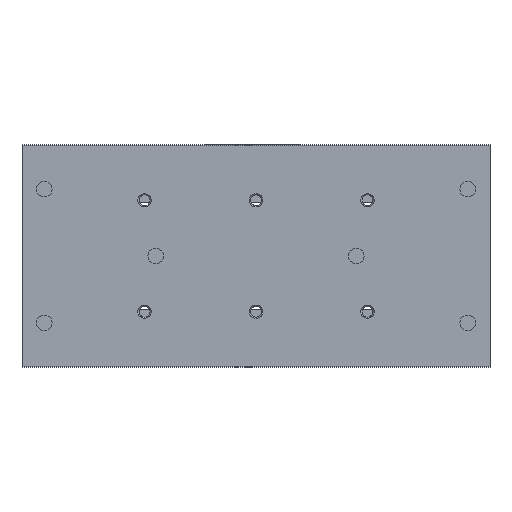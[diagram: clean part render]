
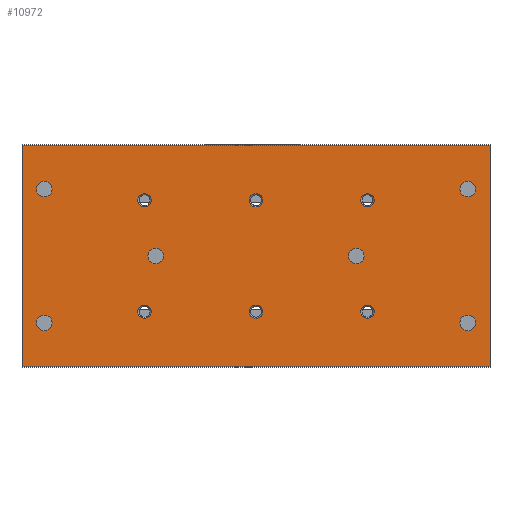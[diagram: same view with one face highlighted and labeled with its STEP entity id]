
A CAD part, front view. The second image highlights one B-rep face of the part: STEP entity #10972.
In plain terms, the highlighted planar face has unit normal (0, -1, 0).
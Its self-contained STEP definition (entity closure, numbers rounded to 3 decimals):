
#370=CIRCLE('',#11626,3.);
#371=CIRCLE('',#11627,3.);
#372=CIRCLE('',#11628,3.);
#373=CIRCLE('',#11629,3.);
#374=CIRCLE('',#11630,3.);
#375=CIRCLE('',#11631,3.);
#376=CIRCLE('',#11632,3.5);
#377=CIRCLE('',#11633,3.5);
#378=CIRCLE('',#11634,3.5);
#379=CIRCLE('',#11635,3.5);
#380=CIRCLE('',#11636,3.5);
#381=CIRCLE('',#11637,3.5);
#1128=ORIENTED_EDGE('',*,*,#4477,.F.);
#1129=ORIENTED_EDGE('',*,*,#4478,.F.);
#1130=ORIENTED_EDGE('',*,*,#4479,.F.);
#1131=ORIENTED_EDGE('',*,*,#4480,.F.);
#1132=ORIENTED_EDGE('',*,*,#4481,.F.);
#1133=ORIENTED_EDGE('',*,*,#4482,.F.);
#1134=ORIENTED_EDGE('',*,*,#4483,.F.);
#1135=ORIENTED_EDGE('',*,*,#4484,.F.);
#1136=ORIENTED_EDGE('',*,*,#4485,.T.);
#1137=ORIENTED_EDGE('',*,*,#4486,.F.);
#1138=ORIENTED_EDGE('',*,*,#4487,.F.);
#1139=ORIENTED_EDGE('',*,*,#4488,.F.);
#1140=ORIENTED_EDGE('',*,*,#4431,.T.);
#1141=ORIENTED_EDGE('',*,*,#4489,.F.);
#1142=ORIENTED_EDGE('',*,*,#4490,.F.);
#1143=ORIENTED_EDGE('',*,*,#4475,.T.);
#4431=EDGE_CURVE('',#6112,#6111,#7235,.T.);
#4475=EDGE_CURVE('',#6146,#6112,#7279,.T.);
#4477=EDGE_CURVE('',#6147,#6147,#370,.T.);
#4478=EDGE_CURVE('',#6148,#6148,#371,.T.);
#4479=EDGE_CURVE('',#6149,#6149,#372,.T.);
#4480=EDGE_CURVE('',#6150,#6150,#373,.T.);
#4481=EDGE_CURVE('',#6151,#6151,#374,.T.);
#4482=EDGE_CURVE('',#6152,#6152,#375,.T.);
#4483=EDGE_CURVE('',#6153,#6153,#376,.T.);
#4484=EDGE_CURVE('',#6154,#6154,#377,.T.);
#4485=EDGE_CURVE('',#6155,#6155,#378,.T.);
#4486=EDGE_CURVE('',#6156,#6156,#379,.T.);
#4487=EDGE_CURVE('',#6157,#6157,#380,.T.);
#4488=EDGE_CURVE('',#6158,#6158,#381,.T.);
#4489=EDGE_CURVE('',#6159,#6111,#7281,.T.);
#4490=EDGE_CURVE('',#6146,#6159,#7282,.T.);
#6111=VERTEX_POINT('',#16590);
#6112=VERTEX_POINT('',#16592);
#6146=VERTEX_POINT('',#16677);
#6147=VERTEX_POINT('',#16681);
#6148=VERTEX_POINT('',#16683);
#6149=VERTEX_POINT('',#16685);
#6150=VERTEX_POINT('',#16687);
#6151=VERTEX_POINT('',#16689);
#6152=VERTEX_POINT('',#16691);
#6153=VERTEX_POINT('',#16693);
#6154=VERTEX_POINT('',#16695);
#6155=VERTEX_POINT('',#16697);
#6156=VERTEX_POINT('',#16699);
#6157=VERTEX_POINT('',#16701);
#6158=VERTEX_POINT('',#16703);
#6159=VERTEX_POINT('',#16705);
#7235=LINE('',#16591,#8243);
#7279=LINE('',#16676,#8287);
#7281=LINE('',#16704,#8289);
#7282=LINE('',#16706,#8290);
#8243=VECTOR('',#12954,1000.);
#8287=VECTOR('',#13012,1000.);
#8289=VECTOR('',#13040,1000.);
#8290=VECTOR('',#13041,1000.);
#9233=EDGE_LOOP('',(#1128));
#9234=EDGE_LOOP('',(#1129));
#9235=EDGE_LOOP('',(#1130));
#9236=EDGE_LOOP('',(#1131));
#9237=EDGE_LOOP('',(#1132));
#9238=EDGE_LOOP('',(#1133));
#9239=EDGE_LOOP('',(#1134));
#9240=EDGE_LOOP('',(#1135));
#9241=EDGE_LOOP('',(#1136));
#9242=EDGE_LOOP('',(#1137));
#9243=EDGE_LOOP('',(#1138));
#9244=EDGE_LOOP('',(#1139));
#9245=EDGE_LOOP('',(#1140,#1141,#1142,#1143));
#9959=FACE_BOUND('',#9233,.T.);
#9960=FACE_BOUND('',#9234,.T.);
#9961=FACE_BOUND('',#9235,.T.);
#9962=FACE_BOUND('',#9236,.T.);
#9963=FACE_BOUND('',#9237,.T.);
#9964=FACE_BOUND('',#9238,.T.);
#9965=FACE_BOUND('',#9239,.T.);
#9966=FACE_BOUND('',#9240,.T.);
#9967=FACE_BOUND('',#9241,.T.);
#9968=FACE_BOUND('',#9242,.T.);
#9969=FACE_BOUND('',#9243,.T.);
#9970=FACE_BOUND('',#9244,.T.);
#9971=FACE_BOUND('',#9245,.T.);
#10685=PLANE('',#11625);
#10972=ADVANCED_FACE('',(#9959,#9960,#9961,#9962,#9963,#9964,#9965,#9966,
#9967,#9968,#9969,#9970,#9971),#10685,.F.);
#11625=AXIS2_PLACEMENT_3D('',#16679,#13014,#13015);
#11626=AXIS2_PLACEMENT_3D('',#16680,#13016,#13017);
#11627=AXIS2_PLACEMENT_3D('',#16682,#13018,#13019);
#11628=AXIS2_PLACEMENT_3D('',#16684,#13020,#13021);
#11629=AXIS2_PLACEMENT_3D('',#16686,#13022,#13023);
#11630=AXIS2_PLACEMENT_3D('',#16688,#13024,#13025);
#11631=AXIS2_PLACEMENT_3D('',#16690,#13026,#13027);
#11632=AXIS2_PLACEMENT_3D('',#16692,#13028,#13029);
#11633=AXIS2_PLACEMENT_3D('',#16694,#13030,#13031);
#11634=AXIS2_PLACEMENT_3D('',#16696,#13032,#13033);
#11635=AXIS2_PLACEMENT_3D('',#16698,#13034,#13035);
#11636=AXIS2_PLACEMENT_3D('',#16700,#13036,#13037);
#11637=AXIS2_PLACEMENT_3D('',#16702,#13038,#13039);
#12954=DIRECTION('',(0.,0.,-1.));
#13012=DIRECTION('',(-1.,0.,0.));
#13014=DIRECTION('',(0.,1.,0.));
#13015=DIRECTION('',(0.,0.,1.));
#13016=DIRECTION('',(0.,-1.,0.));
#13017=DIRECTION('',(0.,0.,-1.));
#13018=DIRECTION('',(0.,-1.,0.));
#13019=DIRECTION('',(0.,0.,-1.));
#13020=DIRECTION('',(0.,-1.,0.));
#13021=DIRECTION('',(0.,0.,-1.));
#13022=DIRECTION('',(0.,-1.,0.));
#13023=DIRECTION('',(0.,0.,-1.));
#13024=DIRECTION('',(0.,-1.,0.));
#13025=DIRECTION('',(0.,0.,-1.));
#13026=DIRECTION('',(0.,-1.,0.));
#13027=DIRECTION('',(0.,0.,-1.));
#13028=DIRECTION('',(0.,-1.,0.));
#13029=DIRECTION('',(0.,0.,-1.));
#13030=DIRECTION('',(0.,-1.,0.));
#13031=DIRECTION('',(0.,0.,-1.));
#13032=DIRECTION('',(0.,1.,0.));
#13033=DIRECTION('',(0.,0.,1.));
#13034=DIRECTION('',(0.,-1.,0.));
#13035=DIRECTION('',(0.,0.,-1.));
#13036=DIRECTION('',(0.,-1.,0.));
#13037=DIRECTION('',(0.,0.,-1.));
#13038=DIRECTION('',(0.,-1.,0.));
#13039=DIRECTION('',(0.,0.,-1.));
#13040=DIRECTION('',(-1.,0.,0.));
#13041=DIRECTION('',(0.,0.,-1.));
#16590=CARTESIAN_POINT('',(0.,0.,-49.7));
#16591=CARTESIAN_POINT('',(0.,0.,49.7));
#16592=CARTESIAN_POINT('',(0.,0.,49.7));
#16676=CARTESIAN_POINT('',(210.,0.,49.7));
#16677=CARTESIAN_POINT('',(210.,0.,49.7));
#16679=CARTESIAN_POINT('',(210.,0.,49.7));
#16680=CARTESIAN_POINT('',(155.,0.,-25.));
#16681=CARTESIAN_POINT('',(155.,0.,-28.));
#16682=CARTESIAN_POINT('',(155.,0.,25.));
#16683=CARTESIAN_POINT('',(155.,0.,22.));
#16684=CARTESIAN_POINT('',(55.,0.,-25.));
#16685=CARTESIAN_POINT('',(55.,0.,-28.));
#16686=CARTESIAN_POINT('',(55.,0.,25.));
#16687=CARTESIAN_POINT('',(55.,0.,22.));
#16688=CARTESIAN_POINT('',(105.,0.,-25.));
#16689=CARTESIAN_POINT('',(105.,0.,-28.));
#16690=CARTESIAN_POINT('',(105.,0.,25.));
#16691=CARTESIAN_POINT('',(105.,0.,22.));
#16692=CARTESIAN_POINT('',(150.,0.,0.));
#16693=CARTESIAN_POINT('',(150.,0.,-3.5));
#16694=CARTESIAN_POINT('',(60.,0.,0.));
#16695=CARTESIAN_POINT('',(60.,0.,-3.5));
#16696=CARTESIAN_POINT('',(200.,0.,30.));
#16697=CARTESIAN_POINT('',(200.,0.,33.5));
#16698=CARTESIAN_POINT('',(200.,0.,-30.));
#16699=CARTESIAN_POINT('',(200.,0.,-33.5));
#16700=CARTESIAN_POINT('',(10.,0.,-30.));
#16701=CARTESIAN_POINT('',(10.,0.,-33.5));
#16702=CARTESIAN_POINT('',(10.,0.,30.));
#16703=CARTESIAN_POINT('',(10.,0.,26.5));
#16704=CARTESIAN_POINT('',(210.,0.,-49.7));
#16705=CARTESIAN_POINT('',(210.,0.,-49.7));
#16706=CARTESIAN_POINT('',(210.,0.,49.7));
